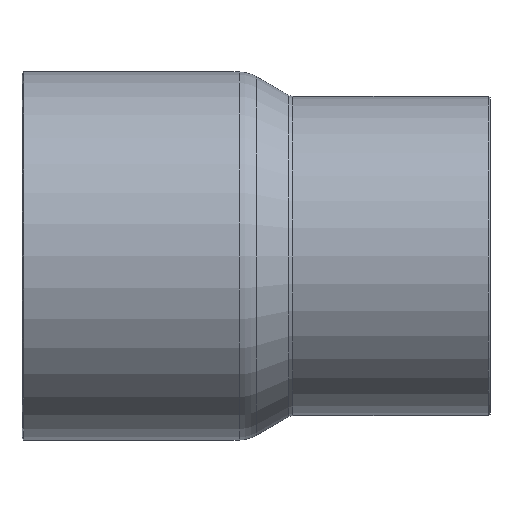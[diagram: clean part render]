
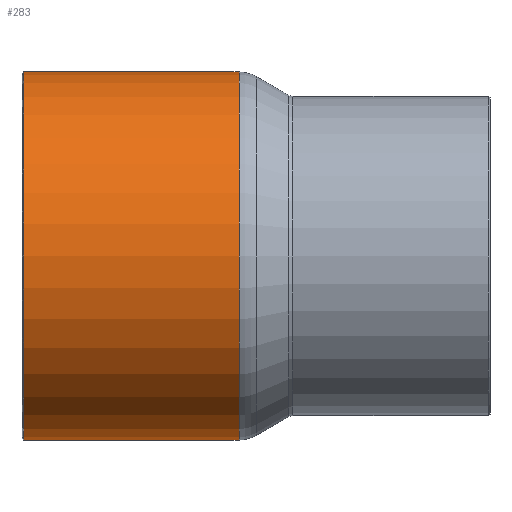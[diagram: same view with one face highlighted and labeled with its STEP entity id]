
A CAD part, front view. The second image highlights one B-rep face of the part: STEP entity #283.
In plain terms, the highlighted cylindrical face has radius 23.79 mm (diameter 47.58 mm), a full revolution.
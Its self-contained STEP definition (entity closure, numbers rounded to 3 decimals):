
#252=CARTESIAN_POINT('',(-34.792,23.79,0.));
#253=VERTEX_POINT('',#252);
#254=CARTESIAN_POINT('',(-34.792,0.0,0.0));
#255=DIRECTION('',(-1.0,0.0,0.0));
#256=DIRECTION('',(0.0,-1.0,0.0));
#257=AXIS2_PLACEMENT_3D('',#254,#255,#256);
#258=CIRCLE('',#257,23.79);
#259=EDGE_CURVE('',#253,#253,#258,.T.);
#264=CARTESIAN_POINT('',(-20.965,0.0,0.0));
#265=DIRECTION('',(1.0,0.0,0.0));
#266=DIRECTION('',(0.0,1.0,0.0));
#267=AXIS2_PLACEMENT_3D('',#264,#265,#266);
#268=CYLINDRICAL_SURFACE('',#267,23.79);
#269=CARTESIAN_POINT('',(-6.938,23.79,0.0));
#270=VERTEX_POINT('',#269);
#271=CARTESIAN_POINT('',(-6.938,0.0,0.0));
#272=DIRECTION('',(1.0,0.0,0.0));
#273=DIRECTION('',(0.0,1.0,0.0));
#274=AXIS2_PLACEMENT_3D('',#271,#272,#273);
#275=CIRCLE('',#274,23.79);
#276=EDGE_CURVE('',#270,#270,#275,.T.);
#277=ORIENTED_EDGE('',*,*,#276,.F.);
#278=EDGE_LOOP('',(#277));
#279=FACE_OUTER_BOUND('',#278,.T.);
#280=ORIENTED_EDGE('',*,*,#259,.F.);
#281=EDGE_LOOP('',(#280));
#282=FACE_BOUND('',#281,.T.);
#283=ADVANCED_FACE('',(#279,#282),#268,.T.);
